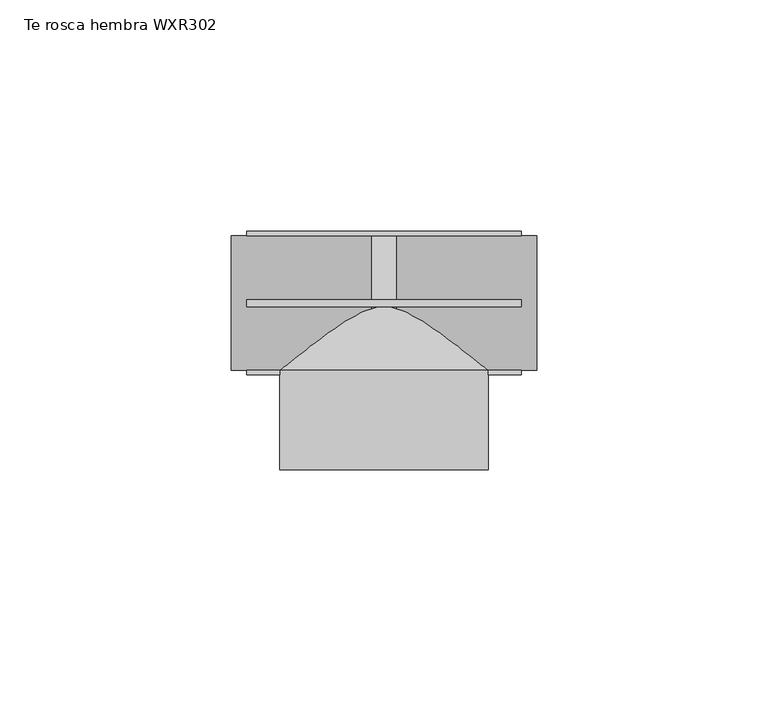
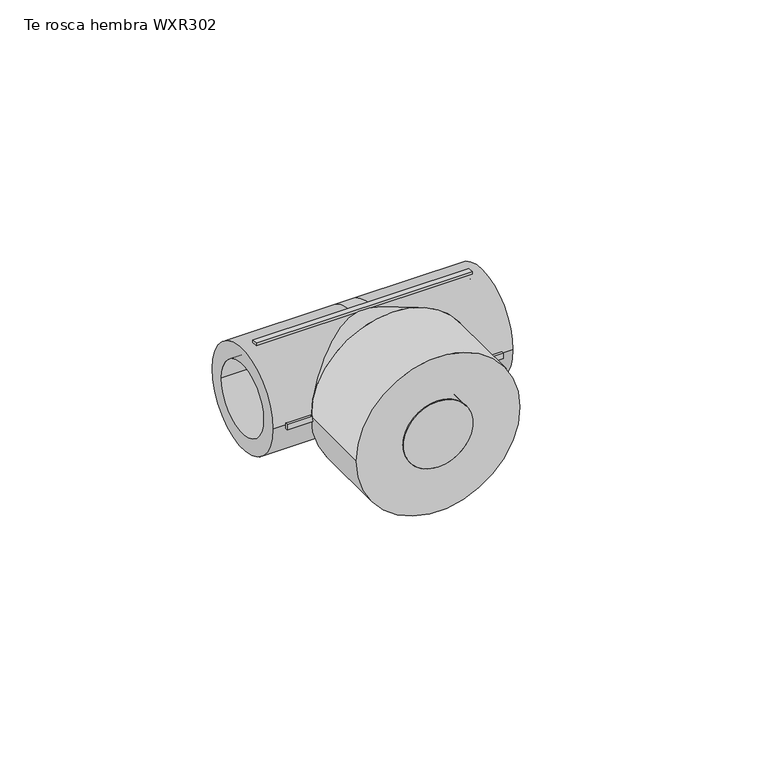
"""IFC4 building model written with IfcOpenShell, lengths in millimetres: pipe fitting geometry, EGB_VASEN_ PPR_Te rosca hembra WXR302 : Te rosca hembra WXR302."""

from ifc_helpers import new_model, si_unit, point, frame, origin, origin_2d, place, context, project, spatial, polyline, circle_curve, trimmed, segment, composite_curve, outline, extrude, source, transform, mapped, element, save
from ifc_brep_helpers import plane_surface, cylinder_surface, revolved_surface, advanced_brep


def te_rosca_hembra_wxr302_405d4ed4(model_context):
    return source(origin(), model_context, "Body", "SolidModel", [
        extrude(outline(composite_curve([segment(trimmed(circle_curve(origin_2d(), 9.525), [point((-9.525, 0.0))], [point((9.525, 0.0))], False, "CARTESIAN"), True, "CONTINUOUS"), segment(trimmed(circle_curve(origin_2d(), 9.525), [point((9.525, 0.0))], [point((-9.525, 0.0))], False, "CARTESIAN"), True, "CONTINUOUS")], self_intersect=False)), frame((0.0, -36.0, 0.0), z_axis=(0.0, 1.0, 0.0), x_axis=(0.0, 0.0, 1.0)), (0.0, 0.0, 1.0), 21.5),
        advanced_brep(
        [(2.64, -10.0, 0.0), (2.64, 10.0, 0.0), (-2.64, 10.0, 0.0), (-2.64, -10.0, 0.0), (-2.64, 14.5, 0.0), (2.64, 14.5, 0.0), (2.64, -14.5, 0.0), (-2.64, -14.5, 0.0), (33.0, -14.5, 0.0), (33.0, 14.5, 0.0), (33.0, -10.0, 0.0), (33.0, 10.0, 0.0), (-33.0, -14.5, 0.0), (-33.0, 14.5, 0.0), (-33.0, -10.0, 0.0), (-33.0, 10.0, 0.0)],
        [
            (0, 1, circle_curve(frame((2.64, 0.0, 0.0), z_axis=(1.0, 0.0, 0.0), x_axis=(0.0, 1.0, 0.0)), 10.0)),
            (1, 0, circle_curve(frame((2.64, 0.0, 0.0), z_axis=(1.0, 0.0, 0.0), x_axis=(0.0, 1.0, 0.0)), 10.0)),
            (2, 3, circle_curve(frame((-2.64, 0.0, 0.0), z_axis=(-1.0, 0.0, 0.0), x_axis=(0.0, 1.0, 0.0)), 10.0)),
            (3, 2, circle_curve(frame((-2.64, 0.0, 0.0), z_axis=(-1.0, 0.0, 0.0), x_axis=(0.0, 1.0, 0.0)), 10.0)),
            (4, 5),
            (5, 6, circle_curve(frame((2.64, 0.0, 0.0), z_axis=(-1.0, 0.0, 0.0), x_axis=(0.0, 0.0, -1.0)), 14.5)),
            (6, 7),
            (7, 4, circle_curve(frame((-2.64, 0.0, 0.0), z_axis=(1.0, 0.0, 0.0), x_axis=(0.0, 0.0, -1.0)), 14.5)),
            (4, 7, circle_curve(frame((-2.64, 0.0, 0.0), z_axis=(1.0, 0.0, 0.0), x_axis=(0.0, 0.0, 1.0)), 14.5)),
            (6, 5, circle_curve(frame((2.64, 0.0, 0.0), z_axis=(-1.0, 0.0, 0.0), x_axis=(0.0, 0.0, 1.0)), 14.5)),
            (8, 9, circle_curve(frame((33.0, 0.0, 0.0), z_axis=(1.0, 0.0, 0.0), x_axis=(0.0, 1.0, 0.0)), 14.5)),
            (9, 8, circle_curve(frame((33.0, 0.0, 0.0), z_axis=(1.0, 0.0, 0.0), x_axis=(0.0, 1.0, 0.0)), 14.5)),
            (10, 11, circle_curve(frame((33.0, 0.0, 0.0), z_axis=(-1.0, 0.0, 0.0), x_axis=(0.0, 1.0, 0.0)), 10.0)),
            (11, 10, circle_curve(frame((33.0, 0.0, 0.0), z_axis=(-1.0, 0.0, 0.0), x_axis=(0.0, 1.0, 0.0)), 10.0)),
            (9, 5),
            (6, 8),
            (11, 1),
            (0, 10),
            (12, 13, circle_curve(frame((-33.0, 0.0, 0.0), z_axis=(-1.0, 0.0, 0.0), x_axis=(0.0, 1.0, 0.0)), 14.5)),
            (13, 12, circle_curve(frame((-33.0, 0.0, 0.0), z_axis=(-1.0, 0.0, 0.0), x_axis=(0.0, 1.0, 0.0)), 14.5)),
            (14, 15, circle_curve(frame((-33.0, 0.0, 0.0), z_axis=(1.0, 0.0, 0.0), x_axis=(0.0, 1.0, 0.0)), 10.0)),
            (15, 14, circle_curve(frame((-33.0, 0.0, 0.0), z_axis=(1.0, 0.0, 0.0), x_axis=(0.0, 1.0, 0.0)), 10.0)),
            (12, 7),
            (4, 13),
            (14, 3),
            (2, 15),
        ],
        [
            plane_surface(frame((2.64, 0.0, 0.0), z_axis=(1.0, 0.0, 0.0), x_axis=(0.0, 0.0, -1.0))),
            plane_surface(frame((-2.64, 0.0, 0.0), z_axis=(-1.0, 0.0, 0.0), x_axis=(0.0, 0.0, -1.0))),
            cylinder_surface(frame((-2.64, 0.0, 0.0), z_axis=(1.0, 0.0, 0.0), x_axis=(0.0, 0.0, -1.0)), 14.5),
            cylinder_surface(frame((-2.64, 0.0, 0.0), z_axis=(1.0, 0.0, 0.0), x_axis=(0.0, 0.0, 1.0)), 14.5),
            plane_surface(frame((33.0, 0.0, 0.0), z_axis=(1.0, 0.0, 0.0), x_axis=(0.0, 0.0, 1.0))),
            cylinder_surface(frame((2.64, 0.0, 0.0), z_axis=(-1.0, 0.0, 0.0), x_axis=(0.0, 1.0, 0.0)), 14.5),
            revolved_surface(polyline([(33.0, 10.0, 0.0), (2.64, 10.0, 0.0)]), (2.64, 0.0, 0.0), (1.0, 0.0, 0.0)),
            plane_surface(frame((-33.0, 0.0, 0.0), z_axis=(-1.0, 0.0, 0.0), x_axis=(0.0, 0.0, 1.0))),
            cylinder_surface(frame((-33.0, 0.0, 0.0), z_axis=(-1.0, 0.0, 0.0), x_axis=(0.0, 1.0, 0.0)), 14.5),
            revolved_surface(polyline([(-2.6400000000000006, 10.0, 0.0), (-33.0, 10.0, 0.0)]), (-33.0, 0.0, 0.0), (1.0, 0.0, 0.0)),
        ],
        [
            (0, [[1, 2]]),
            (1, [[3, 4]]),
            (2, [[5, 6, 7, 8]]),
            (3, [[-5, 9, -7, 10]]),
            (4, [[11, 12], [13, 14]]),
            (5, [[-12, 15, -10, 16]]),
            (5, [[-11, -16, -6, -15]]),
            (6, [[-14, 17, -1, 18]]),
            (6, [[-13, -18, -2, -17]]),
            (7, [[19, 20], [21, 22]]),
            (8, [[-19, 23, -9, 24]]),
            (8, [[-20, -24, -8, -23]]),
            (9, [[-21, 25, -3, 26]]),
            (9, [[-22, -26, -4, -25]]),
        ],
    ),
        extrude(outline(composite_curve([segment(trimmed(circle_curve(origin_2d(), 22.5), [point((0.0, 22.5))], [point((0.0, -22.5))], False, "CARTESIAN"), True, "CONTINUOUS"), segment(trimmed(circle_curve(origin_2d(), 22.5), [point((0.0, -22.5))], [point((0.0, 22.5))], False, "CARTESIAN"), True, "CONTINUOUS")], self_intersect=False), holes=[composite_curve([segment(trimmed(circle_curve(origin_2d(), 9.525), [point((0.0, 9.525))], [point((0.0, -9.525))], True, "CARTESIAN"), True, "CONTINUOUS"), segment(trimmed(circle_curve(origin_2d(), 9.525), [point((0.0, -9.525))], [point((0.0, 9.525))], True, "CARTESIAN"), True, "CONTINUOUS")], self_intersect=False)]), frame((0.0, -36.0, 0.0), z_axis=(0.0, 1.0, 0.0), x_axis=(0.0, 0.0, 1.0)), (0.0, 0.0, 1.0), 21.5),
        advanced_brep(
        [(14.5, 0.0, 0.0), (-14.5, 0.0, 0.0), (22.5, -14.5, 0.0), (-22.5, -14.5, 0.0)],
        [
            (0, 1, circle_curve(frame((0.0, 0.0, 0.0), z_axis=(0.0, 1.0, 0.0), x_axis=(1.0, 0.0, 0.0)), 14.5)),
            (1, 0, circle_curve(frame((0.0, 0.0, 0.0), z_axis=(0.0, 1.0, 0.0), x_axis=(-1.0, 0.0, 0.0)), 14.5)),
            (2, 3, circle_curve(frame((0.0, -14.5, 0.0), z_axis=(0.0, -1.0, 0.0), x_axis=(-1.0, 0.0, 0.0)), 22.5)),
            (3, 2, circle_curve(frame((0.0, -14.5, 0.0), z_axis=(0.0, -1.0, 0.0), x_axis=(1.0, 0.0, 0.0)), 22.5)),
            (3, 1),
            (0, 2),
        ],
        [
            plane_surface(frame((0.0, 0.0, 0.0), z_axis=(0.0, 1.0, 0.0), x_axis=(0.0, 0.0, -1.0))),
            plane_surface(frame((0.0, -14.5, 0.0), z_axis=(0.0, -1.0, 0.0), x_axis=(0.0, 0.0, -1.0))),
            revolved_surface(polyline([(14.500000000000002, 0.0, 0.0), (22.5, -14.5, 0.0)]), (0.0, 26.28125, 0.0), (0.0, -1.0, 0.0)),
            revolved_surface(polyline([(-14.500000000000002, 0.0, 0.0), (-22.5, -14.5, 0.0)]), (0.0, 26.28125, 0.0), (0.0, -1.0, 0.0)),
        ],
        [
            (0, [[1, 2]]),
            (1, [[3, 4]]),
            (2, [[-4, 5, -1, 6]]),
            (3, [[-3, -6, -2, -5]]),
        ],
    ),
        extrude(outline(polyline([(29.7, 0.75), (29.7, -0.75), (-29.7, -0.75), (-29.7, 0.75), (29.7, 0.75)])), frame((0.0, 0.0, 13.5), z_axis=(0.0, 0.0, 1.0), x_axis=(1.0, 0.0, 0.0)), (0.0, 0.0, 1.0), 2.0),
        extrude(outline(polyline([(29.7, 0.75), (29.7, -0.75), (-29.7, -0.75), (-29.7, 0.75), (29.7, 0.75)])), frame((0.0, 0.0, -15.5), z_axis=(0.0, 0.0, 1.0), x_axis=(1.0, 0.0, 0.0)), (0.0, 0.0, 1.0), 2.0),
        extrude(outline(polyline([(29.7, 15.5), (29.7, 13.5), (-29.7, 13.5), (-29.7, 15.5), (29.7, 15.5)])), frame((0.0, 0.0, -0.75), z_axis=(0.0, 0.0, 1.0), x_axis=(1.0, 0.0, 0.0)), (0.0, 0.0, 1.0), 1.5),
        extrude(outline(polyline([(29.7, -13.5), (29.7, -15.5), (-29.7, -15.5), (-29.7, -13.5), (29.7, -13.5)])), frame((0.0, 0.0, -0.75), z_axis=(0.0, 0.0, 1.0), x_axis=(1.0, 0.0, 0.0)), (0.0, 0.0, 1.0), 1.5),
    ])


if __name__ == "__main__":
    model = new_model("IFC4")
    model_context = context("Model", 3, world=origin())
    ifc_project = project(units=[si_unit("LENGTHUNIT", "METRE", prefix="MILLI")], contexts=[model_context])
    site = spatial("IfcSite", under=ifc_project)
    building = spatial("IfcBuilding", under=site)
    placement = place(None, origin())
    te_rosca_hembra_wxr302_shape = te_rosca_hembra_wxr302_405d4ed4(model_context)
    element("IfcPipeFitting", 1, ObjectType="EGB_VASEN_ PPR_Te rosca hembra WXR302 : Te rosca hembra WXR302", at=placement, inside=building, context=model_context, shape_type="MappedRepresentation", body=[
        mapped(te_rosca_hembra_wxr302_shape, transform((0.0, 0.0, 0.0), x_axis=(1.0, 0.0, 0.0), y_axis=(0.0, 1.0, 0.0), z_axis=(0.0, 0.0, 1.0))),
    ])
    save(model, "model.ifc")
